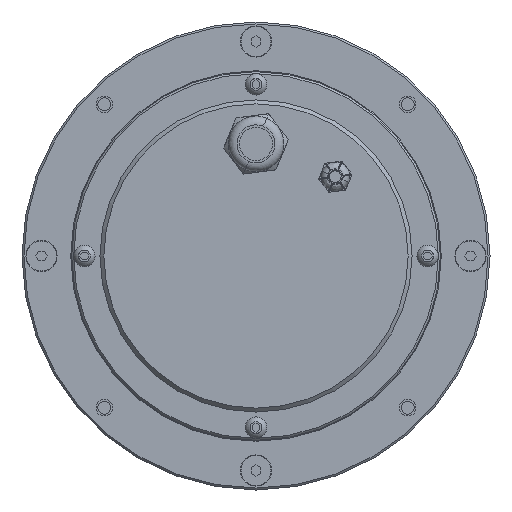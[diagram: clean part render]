
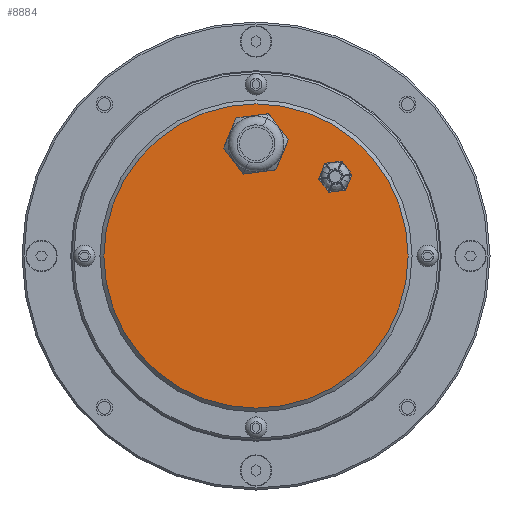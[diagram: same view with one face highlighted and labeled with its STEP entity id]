
A CAD part, left-side view. The second image highlights one B-rep face of the part: STEP entity #8884.
In plain terms, the highlighted planar face has unit normal (-1, 0, 0).
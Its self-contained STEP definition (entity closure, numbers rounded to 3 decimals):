
#2096=PLANE('',#9678);
#2627=VERTEX_POINT('',#17922);
#2629=VERTEX_POINT('',#17928);
#2630=VERTEX_POINT('',#17930);
#3242=CIRCLE('',#9675,78.);
#3244=CIRCLE('',#9679,11.688);
#3245=CIRCLE('',#9680,5.188);
#4181=EDGE_CURVE('',#2627,#2627,#3242,.T.);
#4183=EDGE_CURVE('',#2629,#2629,#3244,.T.);
#4184=EDGE_CURVE('',#2630,#2630,#3245,.T.);
#5875=ORIENTED_EDGE('',*,*,#4183,.T.);
#5876=ORIENTED_EDGE('',*,*,#4184,.T.);
#5877=ORIENTED_EDGE('',*,*,#4181,.F.);
#7185=EDGE_LOOP('',(#5875));
#7186=EDGE_LOOP('',(#5876));
#7187=EDGE_LOOP('',(#5877));
#8101=FACE_BOUND('',#7185,.T.);
#8102=FACE_BOUND('',#7186,.T.);
#8103=FACE_BOUND('',#7187,.T.);
#8884=ADVANCED_FACE('',(#8101,#8102,#8103),#2096,.T.);
#9675=AXIS2_PLACEMENT_3D('',#17921,#20934,#20935);
#9678=AXIS2_PLACEMENT_3D('',#17926,#20940,$);
#9679=AXIS2_PLACEMENT_3D('',#17927,#20941,#20942);
#9680=AXIS2_PLACEMENT_3D('',#17929,#20943,#20944);
#17921=CARTESIAN_POINT('',(-14.,0.,0.));
#17922=CARTESIAN_POINT('',(-14.,0.,78.));
#17926=CARTESIAN_POINT('',(-14.,0.,0.));
#17927=CARTESIAN_POINT('',(-14.,57.5,0.));
#17928=CARTESIAN_POINT('',(-14.,69.188,0.));
#17929=CARTESIAN_POINT('',(-14.,40.659,40.659));
#17930=CARTESIAN_POINT('',(-14.,45.847,40.659));
#20934=DIRECTION('',(1.,0.,0.));
#20935=DIRECTION('',(0.,0.,-78.));
#20940=DIRECTION('',(-1.,0.,0.));
#20941=DIRECTION('',(1.,0.,0.));
#20942=DIRECTION('',(0.,11.688,0.));
#20943=DIRECTION('',(1.,0.,0.));
#20944=DIRECTION('',(0.,5.188,0.));
